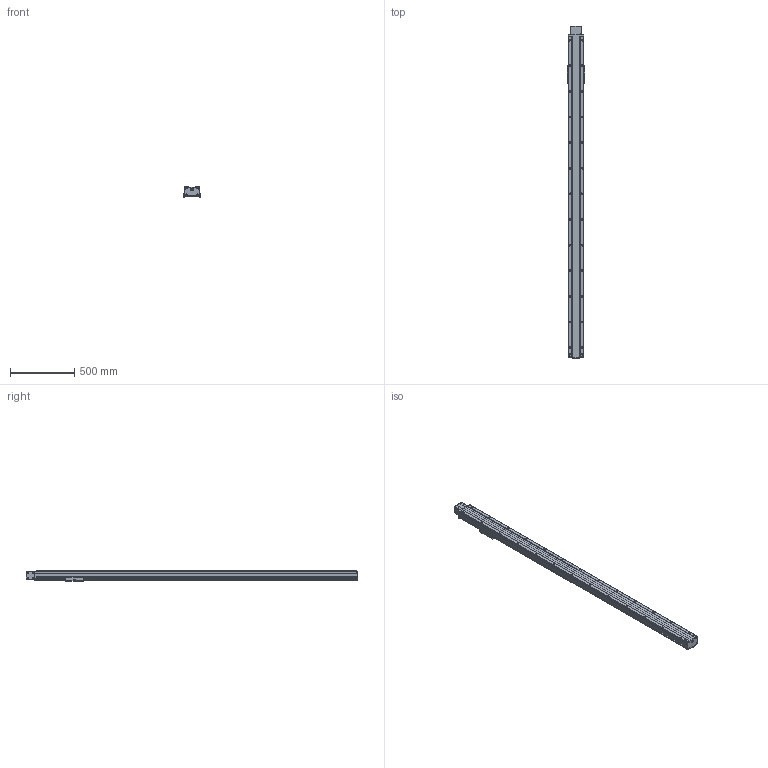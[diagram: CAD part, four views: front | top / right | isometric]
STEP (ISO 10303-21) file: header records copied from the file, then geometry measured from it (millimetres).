
FILE_DESCRIPTION(/* description */ (''),/* implementation_level */ '2;1');
FILE_NAME(/* name */ 'TKB120-FR-2200_asm1_stp.stp',/* time_stamp */ '2016-06-28T16:18:39+08:00',/* author */ (''),/* organization */ (''),/* preprocessor_version */ 'ST-DEVELOPER v15',/* originating_system */ 'SIEMENS PLM Software NX 8.5',/* authorisation */ '');
FILE_SCHEMA (('AUTOMOTIVE_DESIGN { 1 0 10303 214 3 1 1 1 }'));
Length unit declared in the file: millimetre
Products named in the file (3): 200-2; 200-1; TKB120-FR-2200_asm1_stp
Assembly tree (2 placements, depth 2):
  TKB120-FR-2200_asm1_stp
    200-1
    200-2
Bounding box: 134 x 2591 x 80 mm (x, y, z)
Volume: 6239459.3 mm3; surface area: 2600777.9 mm2
Topology: 2 solids, 3 shells, 895 faces, 2631 edges, 1724 vertices
Faces by surface type: cylinder 453, plane 400, cone 42
Full cylindrical faces by diameter (mm): 2.5 x4, 3.3 x20, 4.2 x4, 4.5 x24, 5 x38, 5.5 x28, 6.6 x6, 6.8 x4, 7.5 x4, 8 x12, 9 x6, 9.75 x56, 10.5 x4, 11 x2, 12 x4, 14 x2, 17 x2, 35 x2, 40 x3, 50 x2, 52 x1
Entity records: 29695 total; most frequent: CARTESIAN_POINT 6591, DIRECTION 4822, ORIENTED_EDGE 4468, EDGE_CURVE 2234, AXIS2_PLACEMENT_3D 1850, VERTEX_POINT 1639, EDGE_LOOP 1395, LINE 1122
